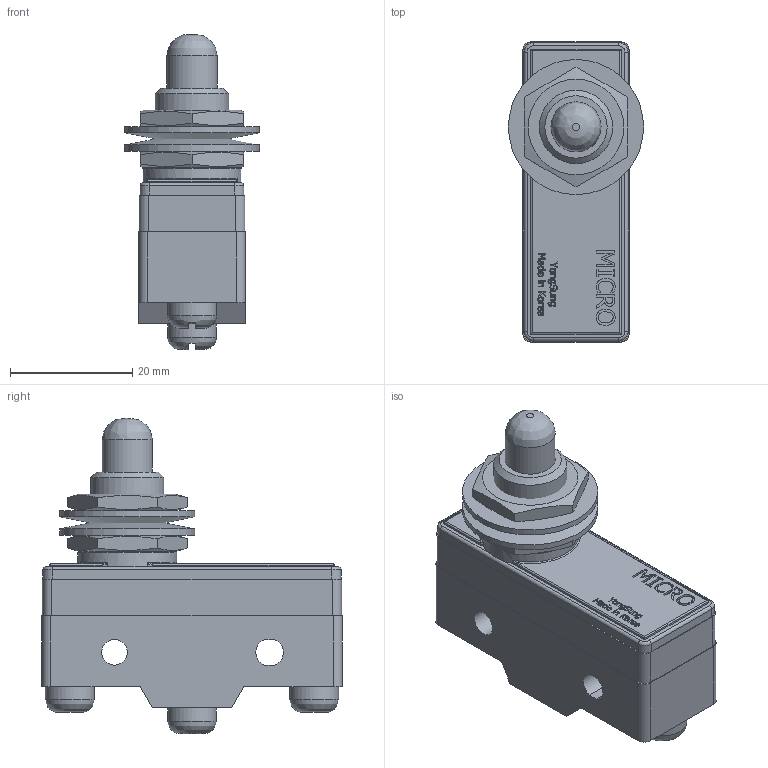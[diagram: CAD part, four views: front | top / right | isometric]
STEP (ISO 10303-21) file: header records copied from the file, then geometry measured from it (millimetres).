
FILE_DESCRIPTION(/* description */ (''),/* implementation_level */ '2;1');
FILE_NAME(/* name */ 'E:\Inventor 2016\제품 외형도\(\X2\C644B8CC\X0\) 리미트 스위치\직류용 마이크로 스위치 (Z형)\YSP3310GW-B.stp',/* time_stamp */ '2019-04-09T10:04:53+09:00',/* author */ ('Kim'),/* organization */ (''),/* preprocessor_version */ 'ST-DEVELOPER v16.1',/* originating_system */ 'Autodesk Inventor 2016',/* authorisation */ '');
FILE_SCHEMA (('AUTOMOTIVE_DESIGN { 1 0 10303 214 3 1 1 }'));
Length unit declared in the file: millimetre
Products named in the file (1): YSP3310GW-B
Bounding box: 22.13 x 49.2 x 51.6 mm (x, y, z)
Volume: 22682.7 mm3; surface area: 10941.1 mm2
Topology: 8 solids, 8 shells, 668 faces, 1785 edges, 1183 vertices
Faces by surface type: plane 358, bspline 261, cylinder 35, torus 7, cone 7
Full cylindrical faces by diameter (mm): 4.2 x1, 8 x3, 8.2 x2, 10.4 x1, 12 x1, 16.2 x1, 22.131 x2
Entity records: 22771 total; most frequent: CARTESIAN_POINT 7484, ORIENTED_EDGE 3530, DIRECTION 2105, EDGE_CURVE 1765, VERTEX_POINT 1182, LINE 1073, VECTOR 1073, EDGE_LOOP 741
